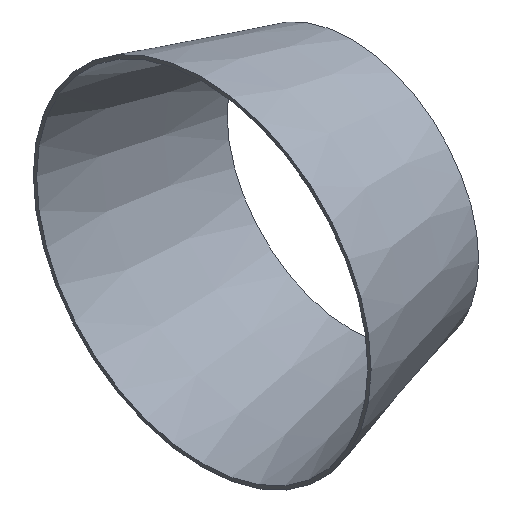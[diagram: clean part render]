
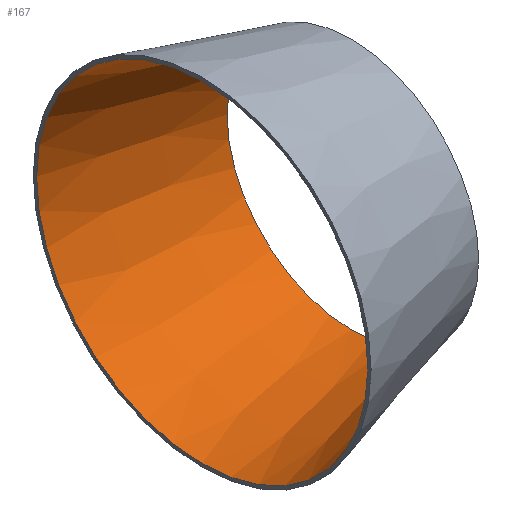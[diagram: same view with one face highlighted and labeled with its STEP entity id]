
A CAD part, isometric view. The second image highlights one B-rep face of the part: STEP entity #167.
In plain terms, the highlighted conical face has half-angle 15.524 degrees and reference radius 100 mm.
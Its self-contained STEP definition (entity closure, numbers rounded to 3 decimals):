
#43 = PLANE('',#44);
#44 = AXIS2_PLACEMENT_3D('',#45,#46,#47);
#45 = CARTESIAN_POINT('',(0.,0.,0.));
#46 = DIRECTION('',(1.,0.,0.));
#47 = DIRECTION('',(0.,1.,0.));
#90 = PLANE('',#91);
#91 = AXIS2_PLACEMENT_3D('',#92,#93,#94);
#92 = CARTESIAN_POINT('',(90.,0.,0.));
#93 = DIRECTION('',(1.,0.,0.));
#94 = DIRECTION('',(0.,1.,0.));
#109 = EDGE_CURVE('',#110,#110,#112,.T.);
#110 = VERTEX_POINT('',#111);
#111 = CARTESIAN_POINT('',(0.,100.,0.));
#112 = SURFACE_CURVE('',#113,(#118,#125),.PCURVE_S1.);
#113 = CIRCLE('',#114,100.);
#114 = AXIS2_PLACEMENT_3D('',#115,#116,#117);
#115 = CARTESIAN_POINT('',(0.,0.,0.));
#116 = DIRECTION('',(1.,0.,0.));
#117 = DIRECTION('',(0.,1.,0.));
#118 = PCURVE('',#43,#119);
#119 = DEFINITIONAL_REPRESENTATION('',(#120),#124);
#120 = CIRCLE('',#121,100.);
#121 = AXIS2_PLACEMENT_2D('',#122,#123);
#122 = CARTESIAN_POINT('',(0.,0.));
#123 = DIRECTION('',(1.,0.));
#124 = ( GEOMETRIC_REPRESENTATION_CONTEXT(2) 
PARAMETRIC_REPRESENTATION_CONTEXT() REPRESENTATION_CONTEXT('2D SPACE',''
  ) );
#125 = PCURVE('',#126,#131);
#126 = CONICAL_SURFACE('',#127,100.,0.271);
#127 = AXIS2_PLACEMENT_3D('',#128,#129,#130);
#128 = CARTESIAN_POINT('',(0.,0.,0.));
#129 = DIRECTION('',(-1.,-0.,-0.));
#130 = DIRECTION('',(0.,1.,0.));
#131 = DEFINITIONAL_REPRESENTATION('',(#132),#136);
#132 = LINE('',#133,#134);
#133 = CARTESIAN_POINT('',(-0.,-0.));
#134 = VECTOR('',#135,1.);
#135 = DIRECTION('',(-1.,-0.));
#136 = ( GEOMETRIC_REPRESENTATION_CONTEXT(2) 
PARAMETRIC_REPRESENTATION_CONTEXT() REPRESENTATION_CONTEXT('2D SPACE',''
  ) );
#144 = EDGE_CURVE('',#145,#145,#147,.T.);
#145 = VERTEX_POINT('',#146);
#146 = CARTESIAN_POINT('',(90.,75.,0.));
#147 = SURFACE_CURVE('',#148,(#153,#160),.PCURVE_S1.);
#148 = CIRCLE('',#149,75.);
#149 = AXIS2_PLACEMENT_3D('',#150,#151,#152);
#150 = CARTESIAN_POINT('',(90.,0.,0.));
#151 = DIRECTION('',(1.,0.,0.));
#152 = DIRECTION('',(0.,1.,0.));
#153 = PCURVE('',#90,#154);
#154 = DEFINITIONAL_REPRESENTATION('',(#155),#159);
#155 = CIRCLE('',#156,75.);
#156 = AXIS2_PLACEMENT_2D('',#157,#158);
#157 = CARTESIAN_POINT('',(0.,0.));
#158 = DIRECTION('',(1.,0.));
#159 = ( GEOMETRIC_REPRESENTATION_CONTEXT(2) 
PARAMETRIC_REPRESENTATION_CONTEXT() REPRESENTATION_CONTEXT('2D SPACE',''
  ) );
#160 = PCURVE('',#126,#161);
#161 = DEFINITIONAL_REPRESENTATION('',(#162),#166);
#162 = LINE('',#163,#164);
#163 = CARTESIAN_POINT('',(-0.,-90.));
#164 = VECTOR('',#165,1.);
#165 = DIRECTION('',(-1.,-0.));
#166 = ( GEOMETRIC_REPRESENTATION_CONTEXT(2) 
PARAMETRIC_REPRESENTATION_CONTEXT() REPRESENTATION_CONTEXT('2D SPACE',''
  ) );
#167 = ADVANCED_FACE('',(#168),#126,.F.);
#168 = FACE_BOUND('',#169,.F.);
#169 = EDGE_LOOP('',(#170,#188,#189,#190));
#170 = ORIENTED_EDGE('',*,*,#171,.F.);
#171 = EDGE_CURVE('',#110,#145,#172,.T.);
#172 = SEAM_CURVE('',#173,(#176,#182),.PCURVE_S1.);
#173 = B_SPLINE_CURVE_WITH_KNOTS('',1,(#174,#175),.UNSPECIFIED.,.F.,.F.,
  (2,2),(0.,1.),.PIECEWISE_BEZIER_KNOTS.);
#174 = CARTESIAN_POINT('',(0.,100.,0.));
#175 = CARTESIAN_POINT('',(90.,75.,0.));
#176 = PCURVE('',#126,#177);
#177 = DEFINITIONAL_REPRESENTATION('',(#178),#181);
#178 = B_SPLINE_CURVE_WITH_KNOTS('',1,(#179,#180),.UNSPECIFIED.,.F.,.F.,
  (2,2),(0.,1.),.PIECEWISE_BEZIER_KNOTS.);
#179 = CARTESIAN_POINT('',(0.,0.));
#180 = CARTESIAN_POINT('',(0.,-90.));
#181 = ( GEOMETRIC_REPRESENTATION_CONTEXT(2) 
PARAMETRIC_REPRESENTATION_CONTEXT() REPRESENTATION_CONTEXT('2D SPACE',''
  ) );
#182 = PCURVE('',#126,#183);
#183 = DEFINITIONAL_REPRESENTATION('',(#184),#187);
#184 = B_SPLINE_CURVE_WITH_KNOTS('',1,(#185,#186),.UNSPECIFIED.,.F.,.F.,
  (2,2),(0.,1.),.PIECEWISE_BEZIER_KNOTS.);
#185 = CARTESIAN_POINT('',(-6.283,0.));
#186 = CARTESIAN_POINT('',(-6.283,-90.));
#187 = ( GEOMETRIC_REPRESENTATION_CONTEXT(2) 
PARAMETRIC_REPRESENTATION_CONTEXT() REPRESENTATION_CONTEXT('2D SPACE',''
  ) );
#188 = ORIENTED_EDGE('',*,*,#109,.T.);
#189 = ORIENTED_EDGE('',*,*,#171,.T.);
#190 = ORIENTED_EDGE('',*,*,#144,.F.);
